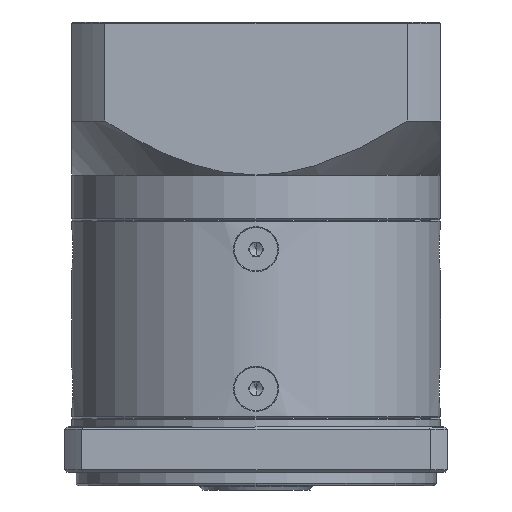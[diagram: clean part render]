
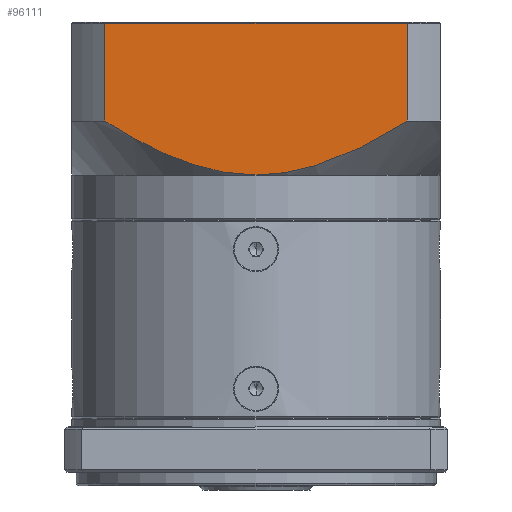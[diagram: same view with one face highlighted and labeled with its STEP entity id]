
A CAD part, front view. The second image highlights one B-rep face of the part: STEP entity #96111.
In plain terms, the highlighted planar face has unit normal (0, -1, 0).
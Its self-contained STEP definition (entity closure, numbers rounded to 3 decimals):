
#4486 = CARTESIAN_POINT ( 'NONE',  ( -125.068, -5.124, 27.012 ) ) ;
#6729 = CARTESIAN_POINT ( 'NONE',  ( -60.92, -5.124, -0.958 ) ) ;
#6762 = VERTEX_POINT ( 'NONE', #16241 ) ;
#6782 = CARTESIAN_POINT ( 'NONE',  ( -100.27, -5.124, -3.908 ) ) ;
#9597 = AXIS2_PLACEMENT_3D ( 'NONE', #4486, #63682, #12972 ) ;
#12972 = DIRECTION ( 'NONE',  ( 0., 0., 1. ) ) ;
#14347 = CARTESIAN_POINT ( 'NONE',  ( -50.482, -5.124, 5.012 ) ) ;
#14862 = CARTESIAN_POINT ( 'NONE',  ( -53.032, -5.124, 3.396 ) ) ;
#15259 = CARTESIAN_POINT ( 'NONE',  ( -67.822, -5.124, -3.905 ) ) ;
#15308 = CARTESIAN_POINT ( 'NONE',  ( -104.486, -5.124, -2.258 ) ) ;
#15935 = CARTESIAN_POINT ( 'NONE',  ( -50.482, -5.124, 27.012 ) ) ;
#16241 = CARTESIAN_POINT ( 'NONE',  ( -50.482, -5.124, 26.762 ) ) ;
#21171 = PLANE ( 'NONE',  #9597 ) ;
#22608 = CARTESIAN_POINT ( 'NONE',  ( -117.654, -5.124, 26.762 ) ) ;
#23472 = CARTESIAN_POINT ( 'NONE',  ( -84.068, -5.124, -6.988 ) ) ;
#23798 = CARTESIAN_POINT ( 'NONE',  ( -71.415, -5.124, -5.085 ) ) ;
#23852 = CARTESIAN_POINT ( 'NONE',  ( -112.509, -5.124, 1.86 ) ) ;
#27593 = VECTOR ( 'NONE', #28590, 1000. ) ;
#28590 = DIRECTION ( 'NONE',  ( 1., 0., 0. ) ) ;
#31295 = EDGE_CURVE ( 'NONE', #98168, #6762, #72560, .T. ) ;
#31633 = CARTESIAN_POINT ( 'NONE',  ( -87.112, -5.124, -6.988 ) ) ;
#31802 = LINE ( 'NONE', #15935, #54240 ) ;
#32309 = CARTESIAN_POINT ( 'NONE',  ( -73.61, -5.124, -5.681 ) ) ;
#32353 = CARTESIAN_POINT ( 'NONE',  ( -117.654, -5.124, 5.012 ) ) ;
#33554 = CARTESIAN_POINT ( 'NONE',  ( -84.068, -5.124, -6.988 ) ) ;
#34479 = DIRECTION ( 'NONE',  ( 0., 0., 1. ) ) ;
#35480 = EDGE_CURVE ( 'NONE', #36528, #105586, #49180, .T. ) ;
#35653 = ORIENTED_EDGE ( 'NONE', *, *, #61675, .F. ) ;
#36528 = VERTEX_POINT ( 'NONE', #14347 ) ;
#40449 = CARTESIAN_POINT ( 'NONE',  ( -55.623, -5.124, 1.863 ) ) ;
#40502 = CARTESIAN_POINT ( 'NONE',  ( -90.097, -5.124, -6.647 ) ) ;
#40820 = CARTESIAN_POINT ( 'NONE',  ( -78.031, -5.124, -6.646 ) ) ;
#42420 = FACE_OUTER_BOUND ( 'NONE', #108698, .T. ) ;
#43723 = CARTESIAN_POINT ( 'NONE',  ( -117.654, -5.124, -6.988 ) ) ;
#46534 = LINE ( 'NONE', #43723, #91505 ) ;
#48958 = CARTESIAN_POINT ( 'NONE',  ( -95.955, -5.124, -5.322 ) ) ;
#49180 = B_SPLINE_CURVE_WITH_KNOTS ( 'NONE', 3,
 ( #108113, #14862, #40449, #6729, #65928, #15259, #74450, #23798, #82921, #32309, #91431, #40820, #99931, #49300 ),
 .UNSPECIFIED., .F., .F.,
 ( 4, 2, 2, 2, 2, 2, 4 ),
 ( 0., 0.009, 0.018, 0.022, 0.025, 0.027, 0.036 ),
 .UNSPECIFIED. ) ;
#49300 = CARTESIAN_POINT ( 'NONE',  ( -84.068, -5.124, -6.988 ) ) ;
#54240 = VECTOR ( 'NONE', #73666, 1000. ) ;
#55965 = CARTESIAN_POINT ( 'NONE',  ( -117.654, -5.124, 5.012 ) ) ;
#57425 = CARTESIAN_POINT ( 'NONE',  ( -98.842, -5.124, -4.413 ) ) ;
#61675 = EDGE_CURVE ( 'NONE', #77731, #98168, #46534, .T. ) ;
#63682 = DIRECTION ( 'NONE',  ( 0., 1., 0. ) ) ;
#65928 = CARTESIAN_POINT ( 'NONE',  ( -63.628, -5.124, -2.248 ) ) ;
#65973 = CARTESIAN_POINT ( 'NONE',  ( -100.978, -5.124, -3.643 ) ) ;
#72560 = LINE ( 'NONE', #79221, #27593 ) ;
#73666 = DIRECTION ( 'NONE',  ( 0., 0., -1. ) ) ;
#74450 = CARTESIAN_POINT ( 'NONE',  ( -69.243, -5.124, -4.412 ) ) ;
#74495 = CARTESIAN_POINT ( 'NONE',  ( -107.201, -5.124, -0.966 ) ) ;
#77731 = VERTEX_POINT ( 'NONE', #55965 ) ;
#79056 = B_SPLINE_CURVE_WITH_KNOTS ( 'NONE', 3,
 ( #23472, #31633, #40502, #99618, #48958, #108163, #57425, #6782, #65973, #15308, #74495, #23852, #82971, #32353 ),
 .UNSPECIFIED., .F., .F.,
 ( 4, 2, 2, 2, 2, 2, 4 ),
 ( 0., 0.009, 0.013, 0.016, 0.018, 0.027, 0.036 ),
 .UNSPECIFIED. ) ;
#79221 = CARTESIAN_POINT ( 'NONE',  ( -125.068, -5.124, 26.762 ) ) ;
#80719 = ORIENTED_EDGE ( 'NONE', *, *, #104980, .F. ) ;
#81997 = ORIENTED_EDGE ( 'NONE', *, *, #97820, .F. ) ;
#82921 = CARTESIAN_POINT ( 'NONE',  ( -72.146, -5.124, -5.296 ) ) ;
#82971 = CARTESIAN_POINT ( 'NONE',  ( -115.102, -5.124, 3.395 ) ) ;
#89825 = ORIENTED_EDGE ( 'NONE', *, *, #31295, .F. ) ;
#91431 = CARTESIAN_POINT ( 'NONE',  ( -74.344, -5.124, -5.857 ) ) ;
#91505 = VECTOR ( 'NONE', #34479, 1000. ) ;
#95265 = ORIENTED_EDGE ( 'NONE', *, *, #35480, .F. ) ;
#96111 = ADVANCED_FACE ( 'NONE', ( #42420 ), #21171, .F. ) ;
#97820 = EDGE_CURVE ( 'NONE', #105586, #77731, #79056, .T. ) ;
#98168 = VERTEX_POINT ( 'NONE', #22608 ) ;
#99618 = CARTESIAN_POINT ( 'NONE',  ( -94.5, -5.124, -5.706 ) ) ;
#99931 = CARTESIAN_POINT ( 'NONE',  ( -81.024, -5.124, -6.988 ) ) ;
#104980 = EDGE_CURVE ( 'NONE', #6762, #36528, #31802, .T. ) ;
#105586 = VERTEX_POINT ( 'NONE', #33554 ) ;
#108113 = CARTESIAN_POINT ( 'NONE',  ( -50.482, -5.124, 5.012 ) ) ;
#108163 = CARTESIAN_POINT ( 'NONE',  ( -98.122, -5.124, -4.652 ) ) ;
#108698 = EDGE_LOOP ( 'NONE', ( #89825, #35653, #81997, #95265, #80719 ) ) ;
